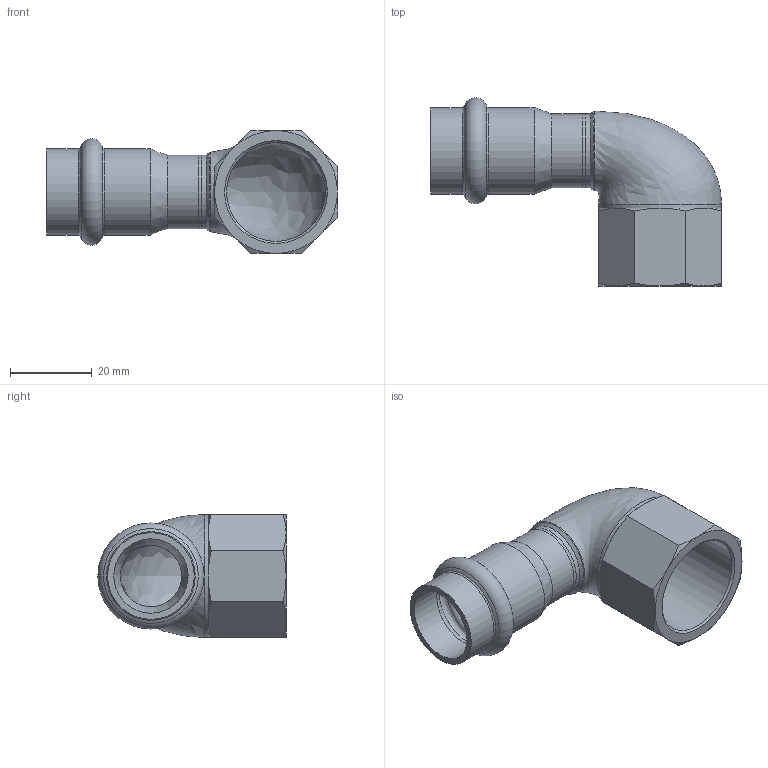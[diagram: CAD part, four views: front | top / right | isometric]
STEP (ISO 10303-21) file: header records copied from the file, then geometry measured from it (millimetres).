
FILE_DESCRIPTION((''),'2;1');
FILE_NAME('G:\Nirosan-Schmiedefeld\Technics\CAD\001 Serie 9.000\018\69090IG1834H(2).stp','2017-05-09T10:17:12',('herberg'),(''),'Autodesk Inventor 2009','Autodesk Inventor 2009','');
FILE_SCHEMA(('AUTOMOTIVE_DESIGN { 1 0 10303 214 1 1 1 1 }'));
Products named in the file (3): 69090IG1834H(2); 69ATWIG1834P(0); 69HM18P(1)
Assembly tree (2 placements, depth 2):
  69090IG1834H(2)
    69ATWIG1834P(0)
    69HM18P(1)
Bounding box: 71 x 45.95 x 30 mm (x, y, z)
Volume: 13199.7 mm3; surface area: 12644.3 mm2
Topology: 2 solids, 2 shells, 55 faces, 121 edges, 70 vertices
Faces by surface type: cone 22, plane 12, cylinder 10, bspline 8, torus 3
Full cylindrical faces by diameter (mm): 15 x2, 18 x2, 18.15 x2, 19.4 x1, 21.15 x2, 30 x1
Entity records: 2070 total; most frequent: CARTESIAN_POINT 984, DIRECTION 216, ORIENTED_EDGE 188, AXIS2_PLACEMENT_3D 104, EDGE_CURVE 94, EDGE_LOOP 84, VERTEX_POINT 68, FACE_OUTER_BOUND 55
